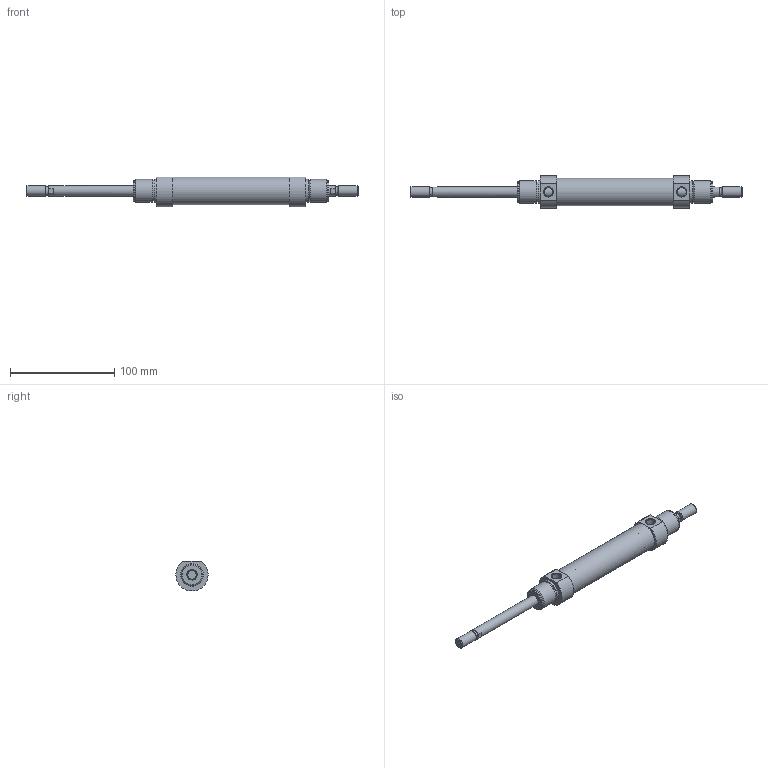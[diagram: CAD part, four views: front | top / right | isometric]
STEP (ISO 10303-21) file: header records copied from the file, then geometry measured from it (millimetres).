
FILE_DESCRIPTION( ( 'STEP AP203' ), '1' );
FILE_NAME( '//expscmdclustefs.cadenas.external/client_exchange/iodir/jobs/output/wkb68465069_no0/STEP/M101-025-0075--__0__2_03.stp', ' ', ( ' ' ), ( ' ' ), 'PSStep 15.0.47', 'PARTsolutions', ' ' );
FILE_SCHEMA( ( 'CONFIG_CONTROL_DESIGN' ) );
Length unit declared in the file: millimetre
Products named in the file (3): M101-025-0075-- [0]; HI_M101-025-0075---[0]-z; HI_M101-025-0075---[0]-k
Assembly tree (2 placements, depth 2):
  M101-025-0075-- [0]
    HI_M101-025-0075---[0]-z
    HI_M101-025-0075---[0]-k
Bounding box: 319 x 31 x 28.79 mm (x, y, z)
Volume: 80061 mm3; surface area: 39634.8 mm2
Topology: 2 solids, 2 shells, 63 faces, 123 edges, 74 vertices
Faces by surface type: plane 28, cylinder 23, cone 10, torus 2
Full cylindrical faces by diameter (mm): 8.16 x2, 8.566 x2, 10 x6, 20.16 x4, 22 x4, 25 x2, 26.6 x1
Entity records: 1700 total; most frequent: CARTESIAN_POINT 390, DIRECTION 276, ORIENTED_EDGE 176, AXIS2_PLACEMENT_3D 124, EDGE_LOOP 112, EDGE_CURVE 88, FACE_OUTER_BOUND 86, VERTEX_POINT 72
